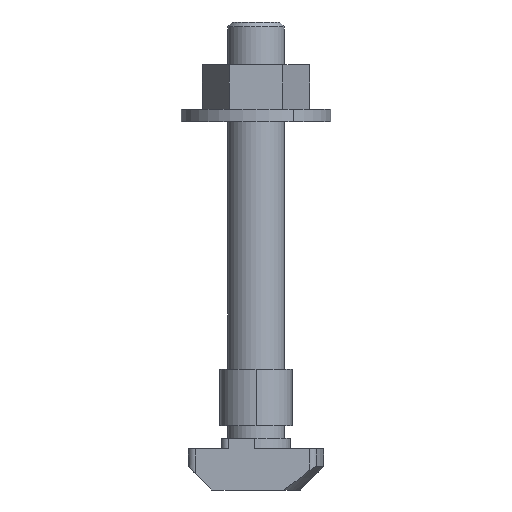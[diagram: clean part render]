
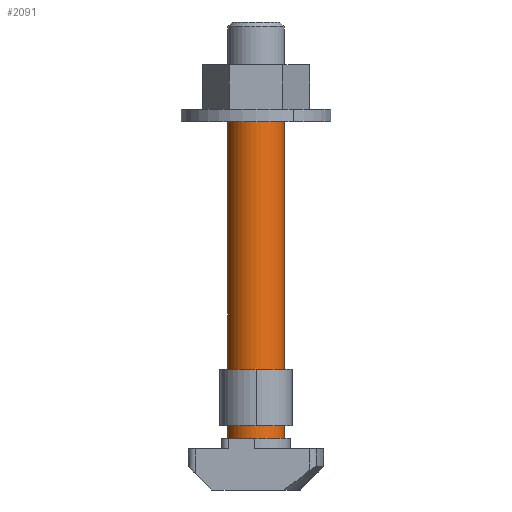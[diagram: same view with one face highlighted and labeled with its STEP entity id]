
A CAD part, left-side view. The second image highlights one B-rep face of the part: STEP entity #2091.
In plain terms, the highlighted cylindrical face has radius 4 mm (diameter 8 mm), a partial arc.
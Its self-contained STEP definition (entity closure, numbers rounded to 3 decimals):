
#13 = EDGE_CURVE ( 'NONE', #3117, #1487, #3199, .T. ) ;
#32 = EDGE_CURVE ( 'NONE', #319, #2188, #1185, .T. ) ;
#33 = LINE ( 'NONE', #3141, #2601 ) ;
#112 = DIRECTION ( 'NONE',  ( 0., 1., 0. ) ) ;
#125 = ORIENTED_EDGE ( 'NONE', *, *, #32, .F. ) ;
#130 = CARTESIAN_POINT ( 'NONE',  ( 7.95, 41.2, 1.205 ) ) ;
#146 = CARTESIAN_POINT ( 'NONE',  ( 7.99, 41.2, 1.151 ) ) ;
#190 = CARTESIAN_POINT ( 'NONE',  ( 7.953, 41.2, 1.216 ) ) ;
#214 = CARTESIAN_POINT ( 'NONE',  ( 8., 41.2, 54. ) ) ;
#319 = VERTEX_POINT ( 'NONE', #847 ) ;
#351 = CARTESIAN_POINT ( 'NONE',  ( 7.951, 41.2, 1.188 ) ) ;
#388 = AXIS2_PLACEMENT_3D ( 'NONE', #1087, #2873, #1336 ) ;
#443 = CARTESIAN_POINT ( 'NONE',  ( 8., 33.2, -4.5 ) ) ;
#540 = CARTESIAN_POINT ( 'NONE',  ( 8., 41.2, 1.15 ) ) ;
#585 = VECTOR ( 'NONE', #1307, 1000. ) ;
#599 = CARTESIAN_POINT ( 'NONE',  ( 7.978, 41.2, 1.245 ) ) ;
#600 = AXIS2_PLACEMENT_3D ( 'NONE', #908, #1589, #652 ) ;
#652 = DIRECTION ( 'NONE',  ( 0., 1., 0. ) ) ;
#657 = CARTESIAN_POINT ( 'NONE',  ( 7.983, 41.2, 1.247 ) ) ;
#663 = CARTESIAN_POINT ( 'NONE',  ( 7.958, 41.2, 1.173 ) ) ;
#670 = CARTESIAN_POINT ( 'NONE',  ( 7.957, 41.2, 1.226 ) ) ;
#687 = CARTESIAN_POINT ( 'NONE',  ( 7.993, 41.2, 1.15 ) ) ;
#729 = DIRECTION ( 'NONE',  ( 0., 0., -1. ) ) ;
#845 = CARTESIAN_POINT ( 'NONE',  ( 8., 41.2, 1.15 ) ) ;
#847 = CARTESIAN_POINT ( 'NONE',  ( 8., 33.2, 40. ) ) ;
#908 = CARTESIAN_POINT ( 'NONE',  ( 8., 37.2, -4.5 ) ) ;
#915 = DIRECTION ( 'NONE',  ( 0., 0., -1. ) ) ;
#926 = CARTESIAN_POINT ( 'NONE',  ( 7.961, 41.2, 1.231 ) ) ;
#943 = CARTESIAN_POINT ( 'NONE',  ( 7.965, 41.2, 1.164 ) ) ;
#950 = CIRCLE ( 'NONE', #388, 4. ) ;
#957 = CARTESIAN_POINT ( 'NONE',  ( 7.964, 41.2, 1.235 ) ) ;
#1050 = AXIS2_PLACEMENT_3D ( 'NONE', #2783, #915, #112 ) ;
#1063 = CARTESIAN_POINT ( 'NONE',  ( 8., 41.2, 40. ) ) ;
#1087 = CARTESIAN_POINT ( 'NONE',  ( 8., 37.2, 40. ) ) ;
#1092 = EDGE_LOOP ( 'NONE', ( #125, #1403, #3026, #1878, #2477, #2907 ) ) ;
#1096 = VERTEX_POINT ( 'NONE', #1063 ) ;
#1119 = CARTESIAN_POINT ( 'NONE',  ( 7.992, 41.2, 1.25 ) ) ;
#1177 = VERTEX_POINT ( 'NONE', #2837 ) ;
#1185 = LINE ( 'NONE', #2719, #585 ) ;
#1227 = CARTESIAN_POINT ( 'NONE',  ( 7.95, 41.2, 1.194 ) ) ;
#1307 = DIRECTION ( 'NONE',  ( 0., 0., -1. ) ) ;
#1336 = DIRECTION ( 'NONE',  ( 1., 0., 0. ) ) ;
#1354 = CARTESIAN_POINT ( 'NONE',  ( 7.984, 41.2, 1.152 ) ) ;
#1392 = CARTESIAN_POINT ( 'NONE',  ( 7.996, 41.2, 1.15 ) ) ;
#1399 = CYLINDRICAL_SURFACE ( 'NONE', #1050, 4. ) ;
#1403 = ORIENTED_EDGE ( 'NONE', *, *, #3079, .T. ) ;
#1487 = VERTEX_POINT ( 'NONE', #2861 ) ;
#1549 = CARTESIAN_POINT ( 'NONE',  ( 7.989, 41.2, 1.249 ) ) ;
#1589 = DIRECTION ( 'NONE',  ( 0., 0., -1. ) ) ;
#1623 = CARTESIAN_POINT ( 'NONE',  ( 7.953, 41.2, 1.183 ) ) ;
#1630 = DIRECTION ( 'NONE',  ( 0., 0., -1. ) ) ;
#1819 = CARTESIAN_POINT ( 'NONE',  ( 7.968, 41.2, 1.239 ) ) ;
#1849 = EDGE_CURVE ( 'NONE', #2188, #1487, #2723, .T. ) ;
#1878 = ORIENTED_EDGE ( 'NONE', *, *, #1997, .T. ) ;
#1963 = B_SPLINE_CURVE_WITH_KNOTS ( 'NONE', 3,
 ( #2483, #2457, #1119, #1549, #657, #599, #2643, #1819, #957, #926, #670, #2959, #190, #2010, #130, #3027, #1227, #351, #1623, #2182, #663, #2441, #943, #1980, #3118, #3009, #1354, #146, #687, #1392, #540 ),
 .UNSPECIFIED., .F., .F.,
 ( 4, 3, 3, 3, 3, 3, 3, 3, 3, 3, 4 ),
 ( 0., 0., 0., 0., 0., 0., 0., 0., 0., 0., 0. ),
 .UNSPECIFIED. ) ;
#1980 = CARTESIAN_POINT ( 'NONE',  ( 7.969, 41.2, 1.16 ) ) ;
#1997 = EDGE_CURVE ( 'NONE', #1177, #3117, #1963, .T. ) ;
#2010 = CARTESIAN_POINT ( 'NONE',  ( 7.951, 41.2, 1.211 ) ) ;
#2091 = ADVANCED_FACE ( 'NONE', ( #2763 ), #1399, .T. ) ;
#2182 = CARTESIAN_POINT ( 'NONE',  ( 7.955, 41.2, 1.178 ) ) ;
#2188 = VERTEX_POINT ( 'NONE', #443 ) ;
#2441 = CARTESIAN_POINT ( 'NONE',  ( 7.961, 41.2, 1.168 ) ) ;
#2457 = CARTESIAN_POINT ( 'NONE',  ( 7.996, 41.2, 1.25 ) ) ;
#2477 = ORIENTED_EDGE ( 'NONE', *, *, #13, .T. ) ;
#2483 = CARTESIAN_POINT ( 'NONE',  ( 8., 41.2, 1.25 ) ) ;
#2533 = VECTOR ( 'NONE', #729, 1000. ) ;
#2590 = EDGE_CURVE ( 'NONE', #1096, #1177, #33, .T. ) ;
#2601 = VECTOR ( 'NONE', #1630, 1000. ) ;
#2643 = CARTESIAN_POINT ( 'NONE',  ( 7.973, 41.2, 1.242 ) ) ;
#2719 = CARTESIAN_POINT ( 'NONE',  ( 8., 33.2, 54. ) ) ;
#2723 = CIRCLE ( 'NONE', #600, 4. ) ;
#2763 = FACE_OUTER_BOUND ( 'NONE', #1092, .T. ) ;
#2783 = CARTESIAN_POINT ( 'NONE',  ( 8., 37.2, 54. ) ) ;
#2837 = CARTESIAN_POINT ( 'NONE',  ( 8., 41.2, 1.25 ) ) ;
#2861 = CARTESIAN_POINT ( 'NONE',  ( 8., 41.2, -4.5 ) ) ;
#2873 = DIRECTION ( 'NONE',  ( 0., 0., -1. ) ) ;
#2907 = ORIENTED_EDGE ( 'NONE', *, *, #1849, .F. ) ;
#2959 = CARTESIAN_POINT ( 'NONE',  ( 7.954, 41.2, 1.221 ) ) ;
#3009 = CARTESIAN_POINT ( 'NONE',  ( 7.979, 41.2, 1.154 ) ) ;
#3026 = ORIENTED_EDGE ( 'NONE', *, *, #2590, .T. ) ;
#3027 = CARTESIAN_POINT ( 'NONE',  ( 7.95, 41.2, 1.199 ) ) ;
#3079 = EDGE_CURVE ( 'NONE', #319, #1096, #950, .T. ) ;
#3117 = VERTEX_POINT ( 'NONE', #845 ) ;
#3118 = CARTESIAN_POINT ( 'NONE',  ( 7.974, 41.2, 1.157 ) ) ;
#3141 = CARTESIAN_POINT ( 'NONE',  ( 8., 41.2, 54. ) ) ;
#3199 = LINE ( 'NONE', #214, #2533 ) ;
